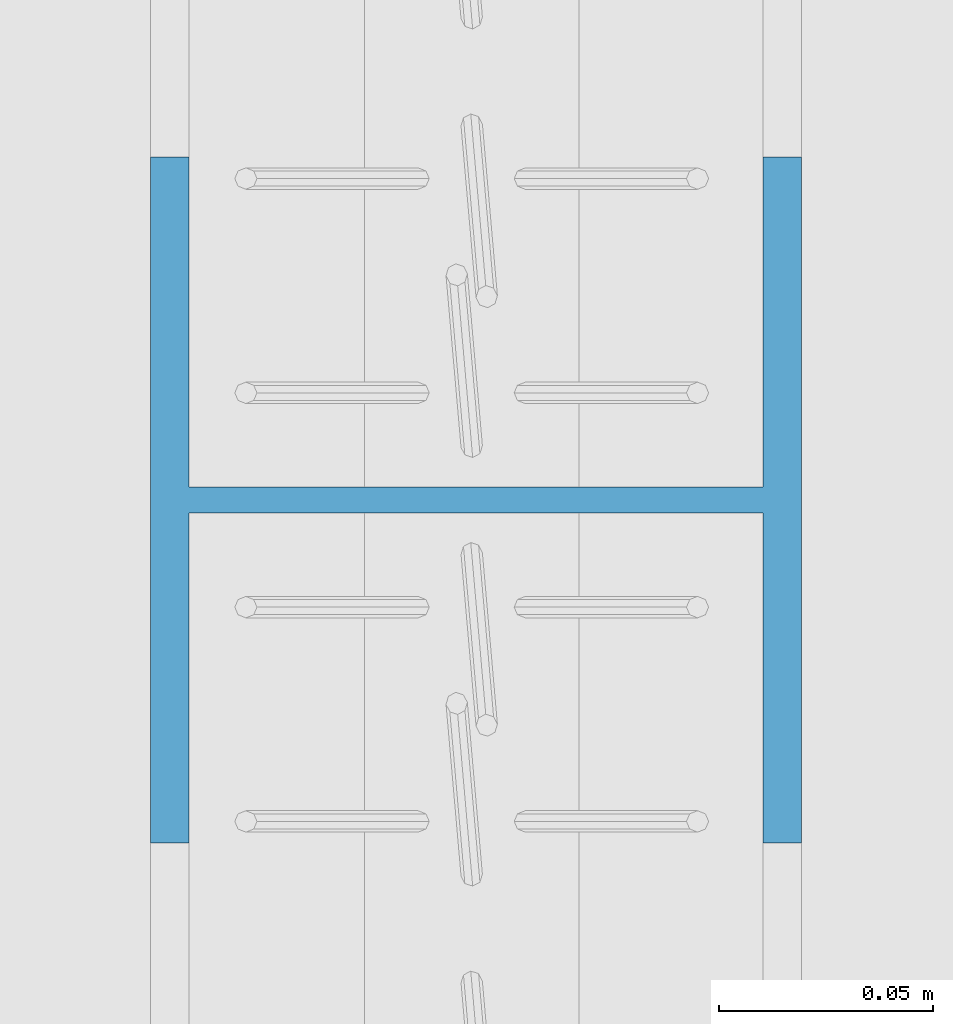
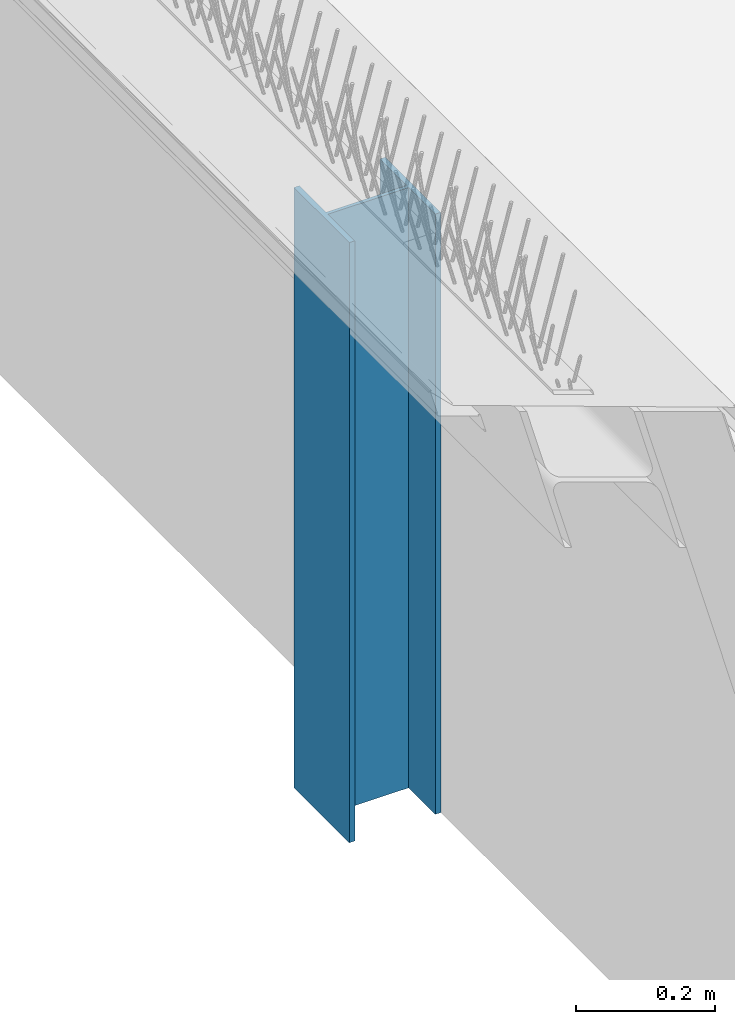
# One storey, part 8 of 81: 1 column.
"""IFC2X3 building model written with IfcOpenShell, lengths in millimetres."""

from ifc_helpers import new_model, entity, si_unit, converted_unit, derived_unit, money_unit, direction, frame, origin_with_axes, place, context, subcontext, project, spatial, faceted_brep, material, type_object, element, save


model = new_model("IFC2X3")

# Units and contexts
model_context = context("Model", 3, precision=0.01, world=origin_with_axes(), true_north=direction((0.0, 1.0)))
body_context = subcontext(model_context, "Body", "Model", "MODEL_VIEW")
ifc_project = project(units=[si_unit("LENGTHUNIT", "METRE", prefix="MILLI"), si_unit("AREAUNIT", "SQUARE_METRE"), si_unit("VOLUMEUNIT", "CUBIC_METRE"), converted_unit("PLANEANGLEUNIT", "DEGREE", entity("IfcPlaneAngleMeasure", 0.0174532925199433), si_unit("PLANEANGLEUNIT", "RADIAN"), dimensions=[0, 0, 0, 0, 0, 0, 0]), money_unit("EUR"), converted_unit("TIMEUNIT", "Year", entity("IfcTimeMeasure", 31557600.0), si_unit("TIMEUNIT", "SECOND"), dimensions=[0, 0, 1, 0, 0, 0, 0]), si_unit("MASSUNIT", "GRAM", prefix="KILO"), si_unit("THERMODYNAMICTEMPERATUREUNIT", "DEGREE_CELSIUS"), si_unit("LUMINOUSINTENSITYUNIT", "LUMEN"), si_unit("ENERGYUNIT", "JOULE", prefix="MEGA"), derived_unit("THERMALCONDUCTANCEUNIT", [(si_unit("POWERUNIT", "WATT"), 1), (si_unit("LENGTHUNIT", "METRE"), -1), (si_unit("THERMODYNAMICTEMPERATUREUNIT", "KELVIN"), -1)]), derived_unit("SPECIFICHEATCAPACITYUNIT", [(si_unit("ENERGYUNIT", "JOULE"), 1), (si_unit("MASSUNIT", "GRAM", prefix="KILO"), -1), (si_unit("THERMODYNAMICTEMPERATUREUNIT", "KELVIN"), -1)]), derived_unit("MASSDENSITYUNIT", [(si_unit("MASSUNIT", "GRAM", prefix="KILO"), 1), (si_unit("VOLUMEUNIT", "CUBIC_METRE"), -1)])], contexts=[model_context])

# Site, building, storey
site_placement = place(None, origin_with_axes())
site = spatial("IfcSite", under=ifc_project, at=site_placement, Name="Site", CompositionType="ELEMENT")
building_placement = place(site_placement, origin_with_axes())
building = spatial("IfcBuilding", under=site, at=building_placement, Name="Naam gebouw", CompositionType="ELEMENT")
storey_placement = place(building_placement, frame((0.0, 0.0, 15320.0), z_axis=(0.0, 0.0, 1.0), x_axis=(1.0, 0.0, 0.0)))
storey = spatial("IfcBuildingStorey", under=building, at=storey_placement, Name="01 dak", CompositionType="ELEMENT", Elevation=15320.0)

# Column
ifc_material = material(Name="Metaal - Staal C")
column_type = type_object("IfcColumnType", Name="HEA160 160 x 152", PredefinedType="COLUMN")
column_placement = place(storey_placement, frame((25376.0, 80400.0, -400.0393597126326), z_axis=(0.0, 0.0, 1.0), x_axis=(0.0, 1.0, 0.0)))
element("IfcColumn", 1, at=column_placement, inside=storey, type_object=column_type, material=ifc_material, Name="HEA160", ObjectType="COLUMN", context=body_context, shape_type="Brep", body=[
    faceted_brep([(-79.9999999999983, 76.00000000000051, 1055.0), (-79.9999999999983, 76.00000000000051, 0.0), (-79.9999999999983, 67.00000000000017, 0.0), (-79.9999999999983, 67.00000000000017, 1055.0), (79.9999999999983, 76.00000000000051, 1055.0), (79.9999999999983, 76.00000000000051, 0.0), (79.9999999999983, 67.00000000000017, 0.0), (3.000000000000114, 67.00000000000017, 0.0), (3.000000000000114, -67.00000000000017, 0.0), (79.9999999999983, -67.00000000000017, 0.0), (79.9999999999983, -76.00000000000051, 0.0), (-79.9999999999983, -76.00000000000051, 0.0), (-79.9999999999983, -67.00000000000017, 0.0), (-3.000000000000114, -67.00000000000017, 0.0), (-3.000000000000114, 67.00000000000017, 0.0), (-3.000000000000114, 67.00000000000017, 1055.0), (-3.000000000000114, -67.00000000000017, 1055.0), (-79.9999999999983, -67.00000000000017, 1055.0), (-79.9999999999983, -76.00000000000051, 1055.0), (79.9999999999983, -76.00000000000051, 1055.0), (79.9999999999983, -67.00000000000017, 1055.0), (3.000000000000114, -67.00000000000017, 1055.0), (3.000000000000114, 67.00000000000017, 1055.0), (79.9999999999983, 67.00000000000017, 1055.0)], [[[0, 1, 2, 3]], [[4, 5, 1, 0]], [[2, 1, 5, 6, 7, 8, 9, 10, 11, 12, 13, 14]], [[3, 2, 14, 15]], [[4, 0, 3, 15, 16, 17, 18, 19, 20, 21, 22, 23]], [[23, 6, 5, 4]], [[22, 7, 6, 23]], [[21, 8, 7, 22]], [[20, 9, 8, 21]], [[19, 10, 9, 20]], [[18, 11, 10, 19]], [[17, 12, 11, 18]], [[16, 13, 12, 17]], [[15, 14, 13, 16]]]),
])

save(model, "model.ifc")
